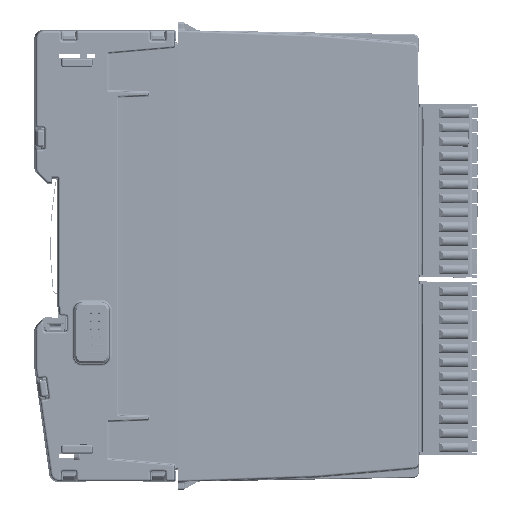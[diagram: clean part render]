
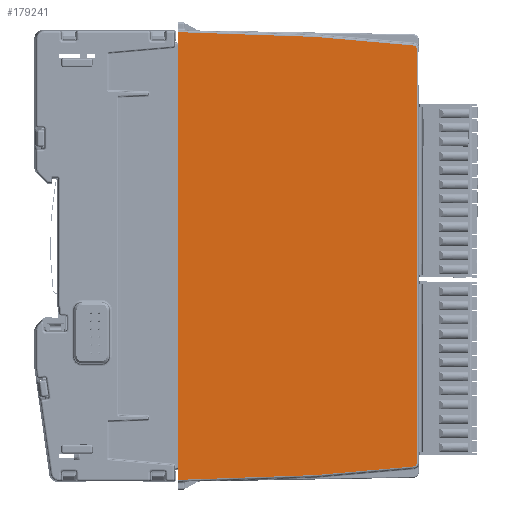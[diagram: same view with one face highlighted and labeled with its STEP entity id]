
A CAD part, left-side view. The second image highlights one B-rep face of the part: STEP entity #179241.
In plain terms, the highlighted planar face has unit normal (-1, -0.018, 0).
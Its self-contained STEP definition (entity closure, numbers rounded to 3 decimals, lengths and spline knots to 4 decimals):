
#16667=FACE_OUTER_BOUND('',#26605,.T.);
#26605=EDGE_LOOP('',(#141431,#141432,#141433,#141434,#141435,#141436,#141437,
#141438,#141439,#141440));
#42697=LINE('',#298302,#60350);
#42698=LINE('',#298304,#60351);
#42699=LINE('',#298306,#60352);
#42700=LINE('',#298308,#60353);
#42701=LINE('',#298310,#60354);
#42702=LINE('',#298314,#60355);
#42703=LINE('',#298318,#60356);
#42704=LINE('',#298319,#60357);
#60350=VECTOR('',#229230,39.3701);
#60351=VECTOR('',#229231,39.3701);
#60352=VECTOR('',#229232,39.3701);
#60353=VECTOR('',#229233,39.3701);
#60354=VECTOR('',#229234,39.3701);
#60355=VECTOR('',#229237,39.3701);
#60356=VECTOR('',#229240,39.3701);
#60357=VECTOR('',#229241,39.3701);
#66871=ELLIPSE('',#192543,0.0315,0.0315);
#66872=ELLIPSE('',#192544,0.0315,0.0315);
#78296=VERTEX_POINT('',#298300);
#78297=VERTEX_POINT('',#298301);
#78298=VERTEX_POINT('',#298303);
#78299=VERTEX_POINT('',#298305);
#78300=VERTEX_POINT('',#298307);
#78301=VERTEX_POINT('',#298309);
#78302=VERTEX_POINT('',#298311);
#78303=VERTEX_POINT('',#298313);
#78304=VERTEX_POINT('',#298315);
#78305=VERTEX_POINT('',#298317);
#100260=EDGE_CURVE('',#78296,#78297,#42697,.T.);
#100261=EDGE_CURVE('',#78298,#78297,#42698,.T.);
#100262=EDGE_CURVE('',#78298,#78299,#42699,.T.);
#100263=EDGE_CURVE('',#78299,#78300,#42700,.T.);
#100264=EDGE_CURVE('',#78300,#78301,#42701,.T.);
#100265=EDGE_CURVE('',#78301,#78302,#66871,.T.);
#100266=EDGE_CURVE('',#78302,#78303,#42702,.T.);
#100267=EDGE_CURVE('',#78303,#78304,#66872,.T.);
#100268=EDGE_CURVE('',#78304,#78305,#42703,.T.);
#100269=EDGE_CURVE('',#78305,#78296,#42704,.T.);
#141431=ORIENTED_EDGE('',*,*,#100260,.T.);
#141432=ORIENTED_EDGE('',*,*,#100261,.F.);
#141433=ORIENTED_EDGE('',*,*,#100262,.T.);
#141434=ORIENTED_EDGE('',*,*,#100263,.T.);
#141435=ORIENTED_EDGE('',*,*,#100264,.T.);
#141436=ORIENTED_EDGE('',*,*,#100265,.T.);
#141437=ORIENTED_EDGE('',*,*,#100266,.T.);
#141438=ORIENTED_EDGE('',*,*,#100267,.T.);
#141439=ORIENTED_EDGE('',*,*,#100268,.T.);
#141440=ORIENTED_EDGE('',*,*,#100269,.T.);
#161612=PLANE('',#192542);
#179241=ADVANCED_FACE('',(#16667),#161612,.T.);
#192542=AXIS2_PLACEMENT_3D('',#298299,#229228,#229229);
#192543=AXIS2_PLACEMENT_3D('',#298312,#229235,#229236);
#192544=AXIS2_PLACEMENT_3D('',#298316,#229238,#229239);
#229228=DIRECTION('center_axis',(-1.,-0.017,
0.));
#229229=DIRECTION('ref_axis',(-0.017,1.,0.));
#229230=DIRECTION('',(0.,0.,-1.));
#229231=DIRECTION('',(0.,0.,1.));
#229232=DIRECTION('',(0.,0.,-1.));
#229233=DIRECTION('',(0.017,-0.999,0.035));
#229234=DIRECTION('',(0.017,-0.996,0.087));
#229235=DIRECTION('center_axis',(-1.,-0.017,
0.));
#229236=DIRECTION('ref_axis',(0.017,-1.,0.));
#229237=DIRECTION('',(0.,0.,1.));
#229238=DIRECTION('center_axis',(-1.,-0.017,
0.));
#229239=DIRECTION('ref_axis',(0.017,-1.,0.));
#229240=DIRECTION('',(-0.017,0.996,0.087));
#229241=DIRECTION('',(-0.017,0.999,0.035));
#298299=CARTESIAN_POINT('Origin',(-0.0296,-0.489,
-2.0669));
#298300=CARTESIAN_POINT('',(-0.0227,-0.8827,0.1083));
#298301=CARTESIAN_POINT('',(-0.0227,-0.8827,-0.0312));
#298302=CARTESIAN_POINT('',(-0.0227,-0.8827,0.128));
#298303=CARTESIAN_POINT('',(-0.0227,-0.8827,-4.1027));
#298304=CARTESIAN_POINT('',(-0.0227,-0.8827,-7.5932));
#298305=CARTESIAN_POINT('',(-0.0227,-0.8827,-4.2421));
#298306=CARTESIAN_POINT('',(-0.0227,-0.8827,0.128));
#298307=CARTESIAN_POINT('',(0.0007,-2.2205,-4.1954));
#298308=CARTESIAN_POINT('',(-0.0282,-0.5654,-4.2532));
#298309=CARTESIAN_POINT('',(0.0174,-3.1772,-4.1117));
#298310=CARTESIAN_POINT('',(-0.0261,-0.6869,-4.3296));
#298311=CARTESIAN_POINT('',(0.0179,-3.2059,-4.0803));
#298312=CARTESIAN_POINT('Origin',(0.0173,-3.1744,
-4.0803));
#298313=CARTESIAN_POINT('',(0.0179,-3.2059,-0.0535));
#298314=CARTESIAN_POINT('',(0.0179,-3.2059,-0.0535));
#298315=CARTESIAN_POINT('',(0.0174,-3.1772,-0.0221));
#298316=CARTESIAN_POINT('Origin',(0.0173,-3.1744,
-0.0535));
#298317=CARTESIAN_POINT('',(0.0007,-2.2205,0.0616));
#298318=CARTESIAN_POINT('',(-0.0261,-0.6869,0.1957));
#298319=CARTESIAN_POINT('',(-0.0282,-0.5654,0.1194));
